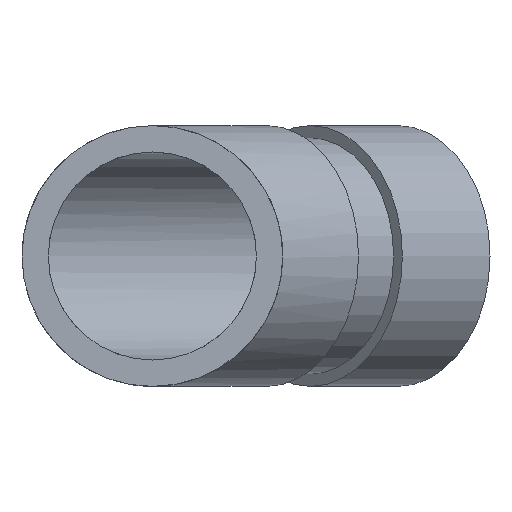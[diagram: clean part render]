
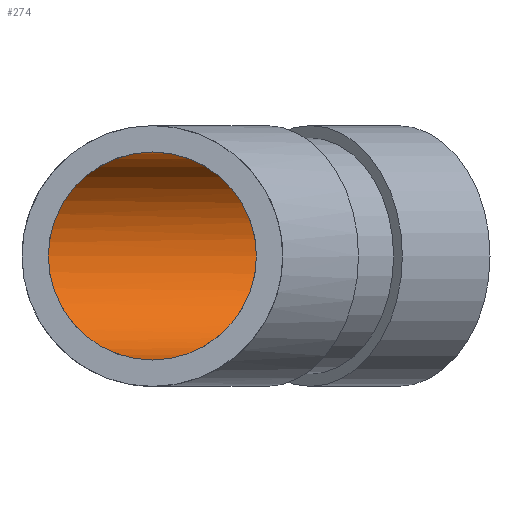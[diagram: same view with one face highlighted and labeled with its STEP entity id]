
A CAD part, front view. The second image highlights one B-rep face of the part: STEP entity #274.
In plain terms, the highlighted cylindrical face has radius 13.322 mm (diameter 26.645 mm), a full revolution.
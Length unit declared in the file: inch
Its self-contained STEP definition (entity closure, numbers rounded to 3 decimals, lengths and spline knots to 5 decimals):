
#45=ELLIPSE('',#322,0.56771,0.5245);
#46=ELLIPSE('',#323,0.56771,0.5245);
#47=ELLIPSE('',#324,0.56771,0.5245);
#72=FACE_OUTER_BOUND('',#90,.T.);
#90=EDGE_LOOP('',(#219,#220,#221,#222,#223,#224));
#102=LINE('',#510,#110);
#110=VECTOR('',#413,0.5245);
#128=CIRCLE('',#327,0.5245);
#143=VERTEX_POINT('',#498);
#144=VERTEX_POINT('',#499);
#145=VERTEX_POINT('',#501);
#147=VERTEX_POINT('',#508);
#169=EDGE_CURVE('',#143,#144,#45,.T.);
#170=EDGE_CURVE('',#143,#145,#46,.T.);
#171=EDGE_CURVE('',#144,#145,#47,.T.);
#174=EDGE_CURVE('',#147,#147,#128,.T.);
#175=EDGE_CURVE('',#147,#144,#102,.T.);
#219=ORIENTED_EDGE('',*,*,#174,.F.);
#220=ORIENTED_EDGE('',*,*,#175,.T.);
#221=ORIENTED_EDGE('',*,*,#171,.T.);
#222=ORIENTED_EDGE('',*,*,#170,.F.);
#223=ORIENTED_EDGE('',*,*,#169,.T.);
#224=ORIENTED_EDGE('',*,*,#175,.F.);
#246=CYLINDRICAL_SURFACE('',#326,0.5245);
#274=ADVANCED_FACE('',(#72),#246,.F.);
#322=AXIS2_PLACEMENT_3D('',#500,#400,#401);
#323=AXIS2_PLACEMENT_3D('',#502,#402,#403);
#324=AXIS2_PLACEMENT_3D('',#503,#404,#405);
#326=AXIS2_PLACEMENT_3D('',#507,#409,#410);
#327=AXIS2_PLACEMENT_3D('',#509,#411,#412);
#400=DIRECTION('center_axis',(-0.383,-0.924,0.));
#401=DIRECTION('ref_axis',(0.924,-0.383,0.));
#402=DIRECTION('center_axis',(0.383,0.924,0.));
#403=DIRECTION('ref_axis',(0.924,-0.383,0.));
#404=DIRECTION('center_axis',(-0.383,-0.924,0.));
#405=DIRECTION('ref_axis',(0.924,-0.383,0.));
#409=DIRECTION('center_axis',(-0.707,-0.707,0.));
#410=DIRECTION('ref_axis',(0.707,-0.707,0.));
#411=DIRECTION('center_axis',(-0.707,-0.707,0.));
#412=DIRECTION('ref_axis',(0.707,-0.707,0.));
#413=DIRECTION('',(-0.707,-0.707,0.));
#498=CARTESIAN_POINT('',(0.,0.,0.5245));
#499=CARTESIAN_POINT('',(-0.5245,0.21726,0.));
#500=CARTESIAN_POINT('Origin',(0.,0.,
0.));
#501=CARTESIAN_POINT('',(0.,0.,-0.5245));
#502=CARTESIAN_POINT('Origin',(0.,0.,0.));
#503=CARTESIAN_POINT('Origin',(0.,0.,
0.));
#507=CARTESIAN_POINT('Origin',(1.23744,1.23744,0.));
#508=CARTESIAN_POINT('',(0.86656,1.60831,0.));
#509=CARTESIAN_POINT('Origin',(1.23744,1.23744,0.));
#510=CARTESIAN_POINT('',(0.86656,1.60831,0.));
